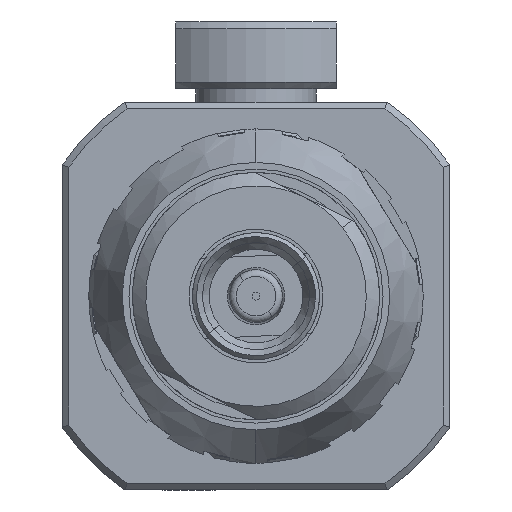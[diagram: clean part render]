
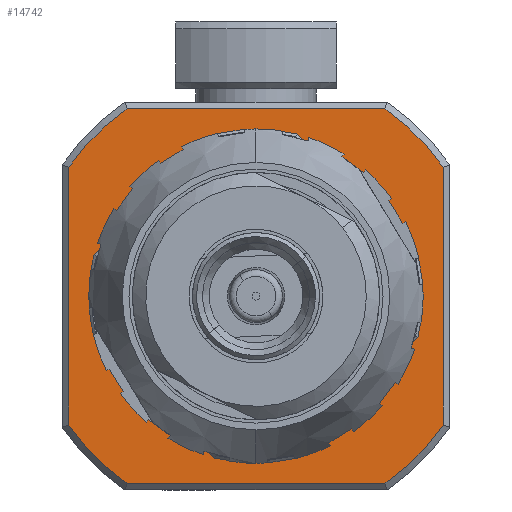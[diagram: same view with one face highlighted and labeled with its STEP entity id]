
A CAD part, front view. The second image highlights one B-rep face of the part: STEP entity #14742.
In plain terms, the highlighted planar face has unit normal (0, -1, 0).
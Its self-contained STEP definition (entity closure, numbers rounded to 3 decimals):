
#83 = CARTESIAN_POINT ( 'NONE',  ( -7.444, 21.768, 132.7 ) ) ;
#164 = CARTESIAN_POINT ( 'NONE',  ( -7.444, 21.768, 132.7 ) ) ;
#318 = CARTESIAN_POINT ( 'NONE',  ( 2.353, 21.768, 146.7 ) ) ;
#328 = CARTESIAN_POINT ( 'NONE',  ( -19.556, 21.768, 135.791 ) ) ;
#337 = VECTOR ( 'NONE', #11006, 1000. ) ;
#617 = ORIENTED_EDGE ( 'NONE', *, *, #6767, .F. ) ;
#846 = AXIS2_PLACEMENT_3D ( 'NONE', #83, #6684, #2364 ) ;
#1054 = CARTESIAN_POINT ( 'NONE',  ( 2.199, 21.768, 118.7 ) ) ;
#1175 = CIRCLE ( 'NONE', #846, 12.5 ) ;
#1406 = DIRECTION ( 'NONE',  ( 0., 0., 1. ) ) ;
#1456 = CARTESIAN_POINT ( 'NONE',  ( -21.444, 21.768, 142.498 ) ) ;
#1573 = EDGE_CURVE ( 'NONE', #3798, #4223, #15894, .T. ) ;
#1774 = EDGE_CURVE ( 'NONE', #12019, #5673, #12952, .T. ) ;
#2105 = AXIS2_PLACEMENT_3D ( 'NONE', #20930, #7478, #2593 ) ;
#2364 = DIRECTION ( 'NONE',  ( -1., 0., 0. ) ) ;
#2417 = CIRCLE ( 'NONE', #14179, 17. ) ;
#2593 = DIRECTION ( 'NONE',  ( -1., 0., 0. ) ) ;
#3035 = CARTESIAN_POINT ( 'NONE',  ( -19.556, 21.768, 129.609 ) ) ;
#3042 = CIRCLE ( 'NONE', #8564, 17. ) ;
#3098 = DIRECTION ( 'NONE',  ( 0., 0., 1. ) ) ;
#3144 = DIRECTION ( 'NONE',  ( 0., 1., 0. ) ) ;
#3187 = CARTESIAN_POINT ( 'NONE',  ( 2.353, 21.768, 118.7 ) ) ;
#3798 = VERTEX_POINT ( 'NONE', #5562 ) ;
#3803 = DIRECTION ( 'NONE',  ( -1., 0., 0. ) ) ;
#4020 = CARTESIAN_POINT ( 'NONE',  ( -7.444, 21.768, 132.7 ) ) ;
#4061 = VECTOR ( 'NONE', #21052, 1000. ) ;
#4089 = AXIS2_PLACEMENT_3D ( 'NONE', #164, #18177, #6773 ) ;
#4223 = VERTEX_POINT ( 'NONE', #11934 ) ;
#4522 = CARTESIAN_POINT ( 'NONE',  ( 6.556, 21.768, 123.056 ) ) ;
#4717 = EDGE_CURVE ( 'NONE', #14788, #5944, #18656, .T. ) ;
#4755 = LINE ( 'NONE', #3035, #4061 ) ;
#4798 = EDGE_CURVE ( 'NONE', #6561, #19617, #17000, .T. ) ;
#4999 = DIRECTION ( 'NONE',  ( 1., 0., 0. ) ) ;
#5138 = AXIS2_PLACEMENT_3D ( 'NONE', #4020, #8674, #3803 ) ;
#5486 = CARTESIAN_POINT ( 'NONE',  ( -21.444, 21.768, 142.344 ) ) ;
#5562 = CARTESIAN_POINT ( 'NONE',  ( -4.353, 21.768, 120.588 ) ) ;
#5636 = ORIENTED_EDGE ( 'NONE', *, *, #14460, .F. ) ;
#5673 = VERTEX_POINT ( 'NONE', #16824 ) ;
#5713 = ORIENTED_EDGE ( 'NONE', *, *, #21385, .F. ) ;
#5732 = AXIS2_PLACEMENT_3D ( 'NONE', #8107, #5962, #21160 ) ;
#5891 = DIRECTION ( 'NONE',  ( 0., 1., 0. ) ) ;
#5944 = VERTEX_POINT ( 'NONE', #6295 ) ;
#5962 = DIRECTION ( 'NONE',  ( 0., -1., 0. ) ) ;
#6033 = DIRECTION ( 'NONE',  ( -1., 0., 0. ) ) ;
#6231 = AXIS2_PLACEMENT_3D ( 'NONE', #12328, #16007, #6033 ) ;
#6295 = CARTESIAN_POINT ( 'NONE',  ( -17.088, 21.768, 146.7 ) ) ;
#6482 = CARTESIAN_POINT ( 'NONE',  ( -7.444, 21.768, 132.7 ) ) ;
#6561 = VERTEX_POINT ( 'NONE', #19493 ) ;
#6594 = ORIENTED_EDGE ( 'NONE', *, *, #10007, .F. ) ;
#6684 = DIRECTION ( 'NONE',  ( 0., -1., 0. ) ) ;
#6767 = EDGE_CURVE ( 'NONE', #14788, #5673, #3042, .T. ) ;
#6773 = DIRECTION ( 'NONE',  ( -1., 0., 0. ) ) ;
#6852 = CARTESIAN_POINT ( 'NONE',  ( -21.444, 21.768, 123.056 ) ) ;
#6858 = ORIENTED_EDGE ( 'NONE', *, *, #14838, .F. ) ;
#7216 = VECTOR ( 'NONE', #11520, 1000. ) ;
#7478 = DIRECTION ( 'NONE',  ( 0., -1., 0. ) ) ;
#7605 = DIRECTION ( 'NONE',  ( 0., 1., 0. ) ) ;
#7611 = VERTEX_POINT ( 'NONE', #19476 ) ;
#7952 = AXIS2_PLACEMENT_3D ( 'NONE', #20942, #7605, #1406 ) ;
#8107 = CARTESIAN_POINT ( 'NONE',  ( -7.444, 21.768, 132.7 ) ) ;
#8256 = ORIENTED_EDGE ( 'NONE', *, *, #10490, .T. ) ;
#8425 = CARTESIAN_POINT ( 'NONE',  ( 2.199, 21.768, 146.7 ) ) ;
#8519 = VERTEX_POINT ( 'NONE', #6852 ) ;
#8564 = AXIS2_PLACEMENT_3D ( 'NONE', #16635, #8600, #13706 ) ;
#8600 = DIRECTION ( 'NONE',  ( 0., 1., 0. ) ) ;
#8674 = DIRECTION ( 'NONE',  ( 0., -1., 0. ) ) ;
#8810 = ORIENTED_EDGE ( 'NONE', *, *, #9227, .F. ) ;
#9227 = EDGE_CURVE ( 'NONE', #4223, #9511, #15064, .T. ) ;
#9327 = PLANE ( 'NONE',  #7952 ) ;
#9511 = VERTEX_POINT ( 'NONE', #9827 ) ;
#9581 = EDGE_CURVE ( 'NONE', #17349, #3798, #1175, .T. ) ;
#9713 = VECTOR ( 'NONE', #19948, 1000. ) ;
#9725 = LINE ( 'NONE', #16663, #10087 ) ;
#9763 = ORIENTED_EDGE ( 'NONE', *, *, #13160, .F. ) ;
#9827 = CARTESIAN_POINT ( 'NONE',  ( 4.667, 21.768, 135.791 ) ) ;
#10007 = EDGE_CURVE ( 'NONE', #14181, #5944, #12385, .T. ) ;
#10073 = ORIENTED_EDGE ( 'NONE', *, *, #4798, .F. ) ;
#10087 = VECTOR ( 'NONE', #21246, 1000. ) ;
#10474 = ORIENTED_EDGE ( 'NONE', *, *, #19887, .F. ) ;
#10490 = EDGE_CURVE ( 'NONE', #14181, #8519, #12947, .T. ) ;
#10807 = ORIENTED_EDGE ( 'NONE', *, *, #12789, .F. ) ;
#11006 = DIRECTION ( 'NONE',  ( 0.707, 0., 0.707 ) ) ;
#11520 = DIRECTION ( 'NONE',  ( 0., 0., -1. ) ) ;
#11721 = CIRCLE ( 'NONE', #5138, 12.5 ) ;
#11884 = ORIENTED_EDGE ( 'NONE', *, *, #1774, .T. ) ;
#11934 = CARTESIAN_POINT ( 'NONE',  ( 4.667, 21.768, 129.609 ) ) ;
#12019 = VERTEX_POINT ( 'NONE', #4522 ) ;
#12328 = CARTESIAN_POINT ( 'NONE',  ( -7.444, 21.768, 132.7 ) ) ;
#12385 = CIRCLE ( 'NONE', #4089, 17. ) ;
#12510 = DIRECTION ( 'NONE',  ( -1., 0., 0. ) ) ;
#12789 = EDGE_CURVE ( 'NONE', #9511, #6561, #9725, .T. ) ;
#12947 = LINE ( 'NONE', #1456, #7216 ) ;
#12952 = LINE ( 'NONE', #14890, #20205 ) ;
#13160 = EDGE_CURVE ( 'NONE', #13913, #16074, #13846, .T. ) ;
#13647 = EDGE_LOOP ( 'NONE', ( #21399, #6594, #8256, #14510, #20918, #6858, #11884, #617 ) ) ;
#13706 = DIRECTION ( 'NONE',  ( -1., 0., 0. ) ) ;
#13846 = CIRCLE ( 'NONE', #6231, 12.5 ) ;
#13913 = VERTEX_POINT ( 'NONE', #328 ) ;
#14179 = AXIS2_PLACEMENT_3D ( 'NONE', #20768, #5891, #12510 ) ;
#14181 = VERTEX_POINT ( 'NONE', #5486 ) ;
#14188 = AXIS2_PLACEMENT_3D ( 'NONE', #6482, #3144, #20051 ) ;
#14460 = EDGE_CURVE ( 'NONE', #16074, #7611, #11721, .T. ) ;
#14510 = ORIENTED_EDGE ( 'NONE', *, *, #21343, .F. ) ;
#14523 = VECTOR ( 'NONE', #18209, 1000. ) ;
#14565 = CARTESIAN_POINT ( 'NONE',  ( -10.535, 21.768, 144.812 ) ) ;
#14679 = LINE ( 'NONE', #3187, #16510 ) ;
#14742 = ADVANCED_FACE ( 'NONE', ( #19632, #16259 ), #9327, .F. ) ;
#14788 = VERTEX_POINT ( 'NONE', #8425 ) ;
#14838 = EDGE_CURVE ( 'NONE', #12019, #19012, #20792, .T. ) ;
#14890 = CARTESIAN_POINT ( 'NONE',  ( 6.556, 21.768, 142.498 ) ) ;
#15064 = CIRCLE ( 'NONE', #5732, 12.5 ) ;
#15894 = LINE ( 'NONE', #16209, #337 ) ;
#16007 = DIRECTION ( 'NONE',  ( 0., -1., 0. ) ) ;
#16074 = VERTEX_POINT ( 'NONE', #19144 ) ;
#16188 = ORIENTED_EDGE ( 'NONE', *, *, #1573, .F. ) ;
#16209 = CARTESIAN_POINT ( 'NONE',  ( -4.353, 21.768, 120.588 ) ) ;
#16259 = FACE_OUTER_BOUND ( 'NONE', #13647, .T. ) ;
#16510 = VECTOR ( 'NONE', #4999, 1000. ) ;
#16635 = CARTESIAN_POINT ( 'NONE',  ( -7.444, 21.768, 132.7 ) ) ;
#16663 = CARTESIAN_POINT ( 'NONE',  ( 4.667, 21.768, 135.791 ) ) ;
#16824 = CARTESIAN_POINT ( 'NONE',  ( 6.556, 21.768, 142.344 ) ) ;
#17000 = CIRCLE ( 'NONE', #2105, 12.5 ) ;
#17349 = VERTEX_POINT ( 'NONE', #20061 ) ;
#17958 = EDGE_CURVE ( 'NONE', #20682, #19012, #14679, .T. ) ;
#18177 = DIRECTION ( 'NONE',  ( 0., 1., 0. ) ) ;
#18209 = DIRECTION ( 'NONE',  ( -0.707, 0., -0.707 ) ) ;
#18619 = CARTESIAN_POINT ( 'NONE',  ( -17.088, 21.768, 118.7 ) ) ;
#18656 = LINE ( 'NONE', #318, #9713 ) ;
#19012 = VERTEX_POINT ( 'NONE', #1054 ) ;
#19144 = CARTESIAN_POINT ( 'NONE',  ( -19.944, 21.768, 132.7 ) ) ;
#19476 = CARTESIAN_POINT ( 'NONE',  ( -19.556, 21.768, 129.609 ) ) ;
#19493 = CARTESIAN_POINT ( 'NONE',  ( -4.353, 21.768, 144.812 ) ) ;
#19617 = VERTEX_POINT ( 'NONE', #20285 ) ;
#19632 = FACE_BOUND ( 'NONE', #20203, .T. ) ;
#19887 = EDGE_CURVE ( 'NONE', #7611, #17349, #4755, .T. ) ;
#19948 = DIRECTION ( 'NONE',  ( -1., 0., 0. ) ) ;
#20051 = DIRECTION ( 'NONE',  ( -1., 0., 0. ) ) ;
#20061 = CARTESIAN_POINT ( 'NONE',  ( -10.535, 21.768, 120.588 ) ) ;
#20203 = EDGE_LOOP ( 'NONE', ( #10807, #8810, #16188, #20214, #10474, #5636, #9763, #5713, #10073 ) ) ;
#20205 = VECTOR ( 'NONE', #3098, 1000. ) ;
#20214 = ORIENTED_EDGE ( 'NONE', *, *, #9581, .F. ) ;
#20285 = CARTESIAN_POINT ( 'NONE',  ( -10.535, 21.768, 144.812 ) ) ;
#20682 = VERTEX_POINT ( 'NONE', #18619 ) ;
#20768 = CARTESIAN_POINT ( 'NONE',  ( -7.444, 21.768, 132.7 ) ) ;
#20792 = CIRCLE ( 'NONE', #14188, 17. ) ;
#20918 = ORIENTED_EDGE ( 'NONE', *, *, #17958, .T. ) ;
#20930 = CARTESIAN_POINT ( 'NONE',  ( -7.444, 21.768, 132.7 ) ) ;
#20942 = CARTESIAN_POINT ( 'NONE',  ( -7.444, 21.768, 132.7 ) ) ;
#20971 = LINE ( 'NONE', #14565, #14523 ) ;
#21052 = DIRECTION ( 'NONE',  ( 0.707, 0., -0.707 ) ) ;
#21160 = DIRECTION ( 'NONE',  ( -1., 0., 0. ) ) ;
#21246 = DIRECTION ( 'NONE',  ( -0.707, 0., 0.707 ) ) ;
#21343 = EDGE_CURVE ( 'NONE', #20682, #8519, #2417, .T. ) ;
#21385 = EDGE_CURVE ( 'NONE', #19617, #13913, #20971, .T. ) ;
#21399 = ORIENTED_EDGE ( 'NONE', *, *, #4717, .T. ) ;
